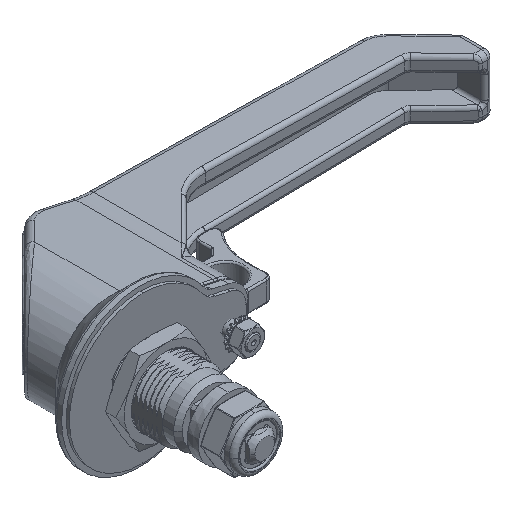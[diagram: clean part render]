
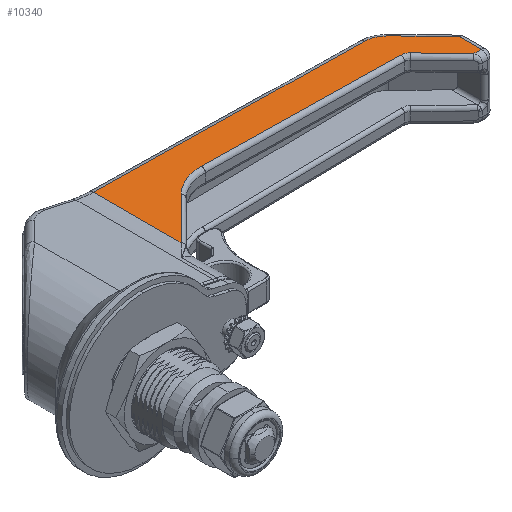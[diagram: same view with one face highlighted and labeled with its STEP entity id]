
A CAD part, isometric view. The second image highlights one B-rep face of the part: STEP entity #10340.
In plain terms, the highlighted planar face has unit normal (0.018, 0, 1).
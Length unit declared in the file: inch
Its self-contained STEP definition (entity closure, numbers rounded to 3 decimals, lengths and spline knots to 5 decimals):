
#827=DIRECTION('',(1.,0.,-0.017));
#828=VECTOR('',#827,3.46496);
#829=CARTESIAN_POINT('',(1.29512,1.49606,0.45077));
#830=LINE('',#829,#828);
#1005=CARTESIAN_POINT('',(1.29512,0.37686,
0.45077));
#1015=DIRECTION('',(0.,1.,0.));
#1016=VECTOR('',#1015,1.11921);
#1017=CARTESIAN_POINT('',(1.29512,0.37686,
0.45077));
#1018=LINE('',#1017,#1016);
#1099=DIRECTION('',(-1.,0.,0.017));
#1100=VECTOR('',#1099,2.55221);
#1101=CARTESIAN_POINT('',(4.8445,1.11024,0.38881));
#1102=LINE('',#1101,#1100);
#3138=CARTESIAN_POINT('',(5.33763,0.66929,
0.3802));
#3152=DIRECTION('',(-1.,0.,0.017));
#3153=VECTOR('',#3152,0.09683);
#3154=CARTESIAN_POINT('',(5.43445,0.66929,
0.37851));
#3155=LINE('',#3154,#3153);
#3156=CARTESIAN_POINT('',(1.8417,0.92344,
0.44123));
#3157=CARTESIAN_POINT('',(1.90075,0.98249,
0.44019));
#3158=CARTESIAN_POINT('',(2.04224,1.07706,0.43772));
#3159=CARTESIAN_POINT('',(2.20917,1.11024,0.43481));
#3160=CARTESIAN_POINT('',(2.29268,1.11024,0.43335));
#3162=DIRECTION('',(0.707,0.707,-0.012));
#3163=VECTOR('',#3162,0.77304);
#3164=CARTESIAN_POINT('',(1.29512,0.37686,
0.45077));
#3165=LINE('',#3164,#3163);
#3166=CARTESIAN_POINT('',(4.98227,1.40381,0.38641));
#3167=CARTESIAN_POINT('',(4.95311,1.43297,0.38692));
#3168=CARTESIAN_POINT('',(4.88323,1.47968,0.38813));
#3169=CARTESIAN_POINT('',(4.8008,1.49606,0.38957));
#3170=CARTESIAN_POINT('',(4.75956,1.49606,0.39029));
#3172=DIRECTION('',(-0.707,0.707,0.012));
#3173=VECTOR('',#3172,0.63952);
#3174=CARTESIAN_POINT('',(5.43445,0.95164,
0.37851));
#3175=LINE('',#3174,#3173);
#3176=DIRECTION('',(0.707,-0.707,-0.012));
#3177=VECTOR('',#3176,0.57145);
#3178=CARTESIAN_POINT('',(4.93359,1.07334,0.38726));
#3179=LINE('',#3178,#3177);
#3180=CARTESIAN_POINT('',(4.8445,1.11024,0.38881));
#3181=CARTESIAN_POINT('',(4.861,1.11024,0.38852));
#3182=CARTESIAN_POINT('',(4.89397,1.10369,0.38795));
#3183=CARTESIAN_POINT('',(4.92192,1.085,0.38746));
#3184=CARTESIAN_POINT('',(4.93359,1.07334,0.38726));
#3215=DIRECTION('',(0.,-1.,0.));
#3216=VECTOR('',#3215,0.28235);
#3217=CARTESIAN_POINT('',(5.43445,0.95164,
0.37851));
#3218=LINE('',#3217,#3216);
#3719=VERTEX_POINT('',#1005);
#3774=VERTEX_POINT('',#3180);
#3775=VERTEX_POINT('',#3184);
#3792=CARTESIAN_POINT('',(1.29512,1.49606,0.45077));
#3793=VERTEX_POINT('',#3792);
#3864=CARTESIAN_POINT('',(5.43445,0.95164,
0.37851));
#3866=VERTEX_POINT('',#3864);
#3972=CARTESIAN_POINT('',(5.43445,0.66929,
0.37851));
#3973=VERTEX_POINT('',#3972);
#4151=CARTESIAN_POINT('',(1.8417,0.92344,
0.44123));
#4152=VERTEX_POINT('',#4151);
#4181=VERTEX_POINT('',#3138);
#4211=VERTEX_POINT('',#3160);
#4218=CARTESIAN_POINT('',(4.98227,1.40381,0.38641));
#4219=VERTEX_POINT('',#4218);
#4406=CARTESIAN_POINT('',(4.75956,1.49606,0.39029));
#4407=VERTEX_POINT('',#4406);
#10319=CARTESIAN_POINT('',(5.51181,1.5748,
0.37716));
#10320=DIRECTION('',(0.017,0.,1.));
#10321=DIRECTION('',(1.,0.,-0.017));
#10322=AXIS2_PLACEMENT_3D('',#10319,#10320,#10321);
#10323=PLANE('',#10322);
#10324=ORIENTED_EDGE('',*,*,#5854,.F.);
#10325=ORIENTED_EDGE('',*,*,#5808,.F.);
#10326=ORIENTED_EDGE('',*,*,#5647,.T.);
#10327=ORIENTED_EDGE('',*,*,#5334,.T.);
#10329=ORIENTED_EDGE('',*,*,#10328,.F.);
#10331=ORIENTED_EDGE('',*,*,#10330,.F.);
#10333=ORIENTED_EDGE('',*,*,#10332,.T.);
#10334=ORIENTED_EDGE('',*,*,#10312,.T.);
#10335=ORIENTED_EDGE('',*,*,#5950,.F.);
#10336=ORIENTED_EDGE('',*,*,#5935,.F.);
#10337=ORIENTED_EDGE('',*,*,#5869,.T.);
#10338=EDGE_LOOP('',(#10324,#10325,#10326,#10327,#10329,#10331,#10333,#10334,
#10335,#10336,#10337));
#10339=FACE_OUTER_BOUND('',#10338,.F.);
#3161=B_SPLINE_CURVE_WITH_KNOTS('',3,(#3156,#3157,#3158,#3159,#3160),
.UNSPECIFIED.,.F.,.F.,(4,1,4),(0.,0.5,1.),.UNSPECIFIED.);
#3171=B_SPLINE_CURVE_WITH_KNOTS('',3,(#3166,#3167,#3168,#3169,#3170),
.UNSPECIFIED.,.F.,.F.,(4,1,4),(0.,0.5,1.),.UNSPECIFIED.);
#3185=B_SPLINE_CURVE_WITH_KNOTS('',3,(#3180,#3181,#3182,#3183,#3184),
.UNSPECIFIED.,.F.,.F.,(4,1,4),(0.,0.5,1.),.UNSPECIFIED.);
#5334=EDGE_CURVE('',#3793,#4407,#830,.T.);
#5647=EDGE_CURVE('',#3719,#3793,#1018,.T.);
#5808=EDGE_CURVE('',#3719,#4152,#3165,.T.);
#5854=EDGE_CURVE('',#4152,#4211,#3161,.T.);
#5869=EDGE_CURVE('',#3774,#4211,#1102,.T.);
#5935=EDGE_CURVE('',#3774,#3775,#3185,.T.);
#5950=EDGE_CURVE('',#3775,#4181,#3179,.T.);
#10312=EDGE_CURVE('',#3973,#4181,#3155,.T.);
#10328=EDGE_CURVE('',#4219,#4407,#3171,.T.);
#10330=EDGE_CURVE('',#3866,#4219,#3175,.T.);
#10332=EDGE_CURVE('',#3866,#3973,#3218,.T.);
#10340=ADVANCED_FACE('',(#10339),#10323,.T.);
